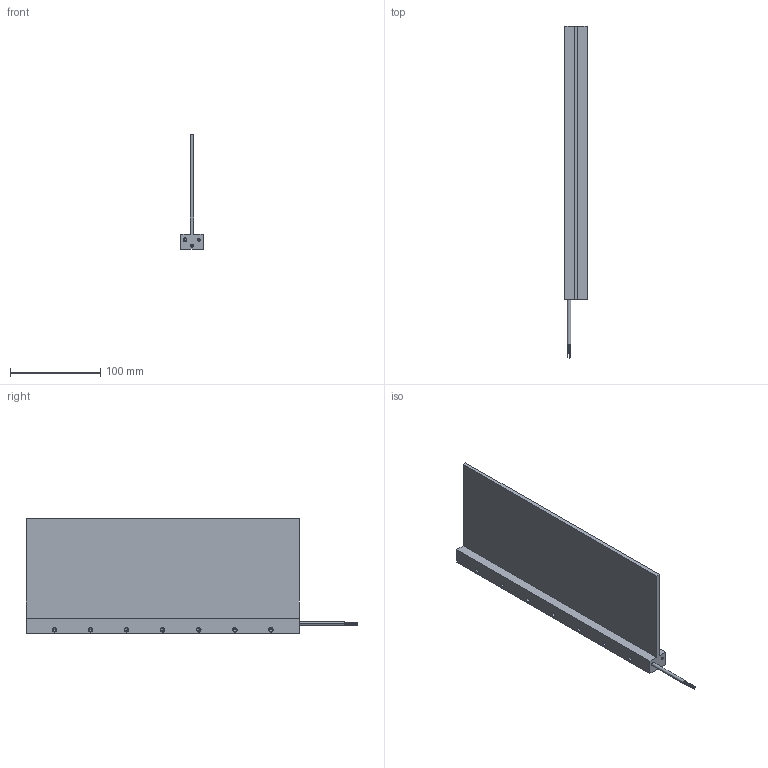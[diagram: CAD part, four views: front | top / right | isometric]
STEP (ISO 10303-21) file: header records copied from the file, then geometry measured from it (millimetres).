
FILE_DESCRIPTION((''),'2;1');
FILE_NAME('IL18-100','2006-04-05T',('saurabh.singhal'),('Kollmorgen'),'PRO/ENGINEER BY PARAMETRIC TECHNOLOGY CORPORATION, 2005310','PRO/ENGINEER BY PARAMETRIC TECHNOLOGY CORPORATION, 2005310','');
FILE_SCHEMA(('CONFIG_CONTROL_DESIGN'));
Length unit declared in the file: millimetre
Products named in the file (1): IL18-100
Bounding box: 24.4 x 367.82 x 127.3 mm (x, y, z)
Volume: 271196.8 mm3; surface area: 98602.6 mm2
Topology: 1 solids, 29 shells, 245 faces, 606 edges, 376 vertices
Faces by surface type: cylinder 138, cone 56, plane 51
Entity records: 7003 total; most frequent: DIRECTION 1374, CARTESIAN_POINT 1172, ORIENTED_EDGE 988, AXIS2_PLACEMENT_3D 578, EDGE_CURVE 550, VERTEX_POINT 376, CIRCLE 332, EDGE_LOOP 314
